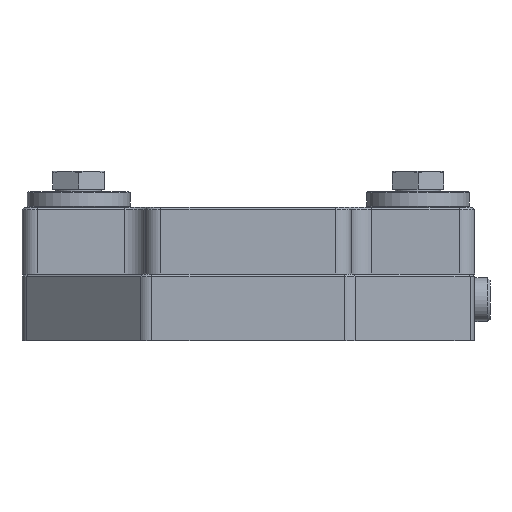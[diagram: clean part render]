
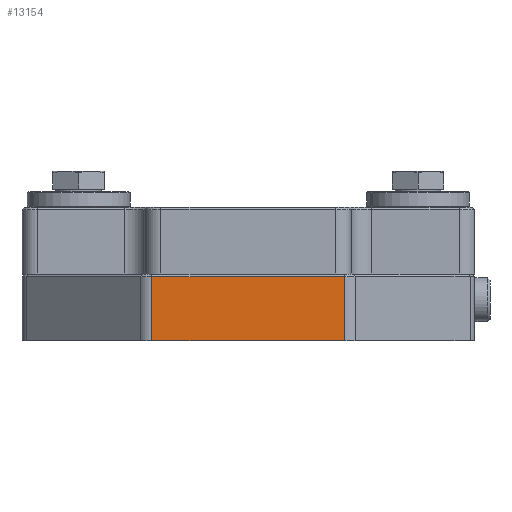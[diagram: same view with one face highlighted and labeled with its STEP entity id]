
A CAD part, left-side view. The second image highlights one B-rep face of the part: STEP entity #13154.
In plain terms, the highlighted planar face has unit normal (-1, 0, 0) as drawn and (1, 0, 0) by its records, which use the part's own axes.
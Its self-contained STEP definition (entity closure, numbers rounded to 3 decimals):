
#2556=ORIENTED_EDGE('',*,*,#4195,.T.);
#2557=ORIENTED_EDGE('',*,*,#4196,.T.);
#2558=ORIENTED_EDGE('',*,*,#4197,.T.);
#2559=ORIENTED_EDGE('',*,*,#4198,.T.);
#4195=EDGE_CURVE('',#5151,#5152,#5873,.F.);
#4196=EDGE_CURVE('',#5152,#5153,#5874,.T.);
#4197=EDGE_CURVE('',#5153,#5154,#5875,.T.);
#4198=EDGE_CURVE('',#5154,#5151,#5876,.T.);
#5151=VERTEX_POINT('',#20777);
#5152=VERTEX_POINT('',#20778);
#5153=VERTEX_POINT('',#20780);
#5154=VERTEX_POINT('',#20782);
#5873=LINE('',#20776,#6569);
#5874=LINE('',#20779,#6570);
#5875=LINE('',#20781,#6571);
#5876=LINE('',#20783,#6572);
#6569=VECTOR('',#15817,1000.);
#6570=VECTOR('',#15818,1000.);
#6571=VECTOR('',#15819,1000.);
#6572=VECTOR('',#15820,1000.);
#7298=EDGE_LOOP('',(#2556,#2557,#2558,#2559));
#8095=FACE_BOUND('',#7298,.T.);
#8602=PLANE('',#13912);
#13154=ADVANCED_FACE('',(#8095),#8602,.F.);
#13912=AXIS2_PLACEMENT_3D('',#20775,#15815,#15816);
#15815=DIRECTION('',(-1.,0.,0.));
#15816=DIRECTION('',(0.,0.,1.));
#15817=DIRECTION('',(0.,0.,-1.));
#15818=DIRECTION('',(0.,-1.,0.));
#15819=DIRECTION('',(0.,0.,-1.));
#15820=DIRECTION('',(0.,1.,0.));
#20775=CARTESIAN_POINT('',(41.,-20.,13.));
#20776=CARTESIAN_POINT('',(41.,18.757,13.));
#20777=CARTESIAN_POINT('',(41.,18.757,0.));
#20778=CARTESIAN_POINT('',(41.,18.757,12.5));
#20779=CARTESIAN_POINT('',(41.,-18.757,12.5));
#20780=CARTESIAN_POINT('',(41.,-18.757,12.5));
#20781=CARTESIAN_POINT('',(41.,-18.757,13.));
#20782=CARTESIAN_POINT('',(41.,-18.757,0.));
#20783=CARTESIAN_POINT('',(41.,-20.,0.));
